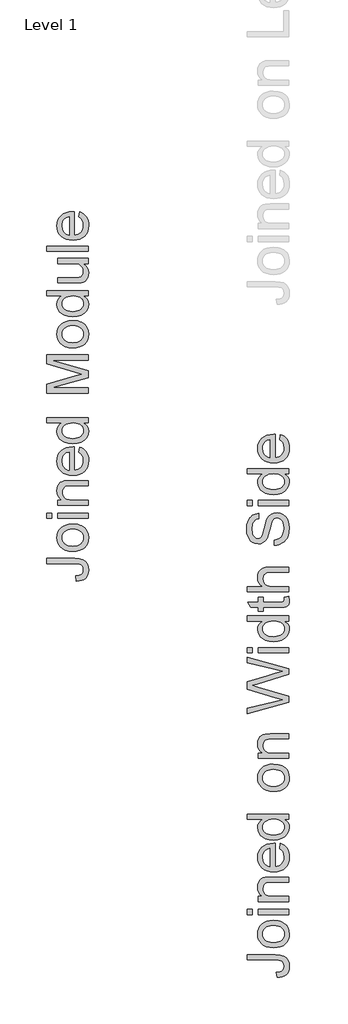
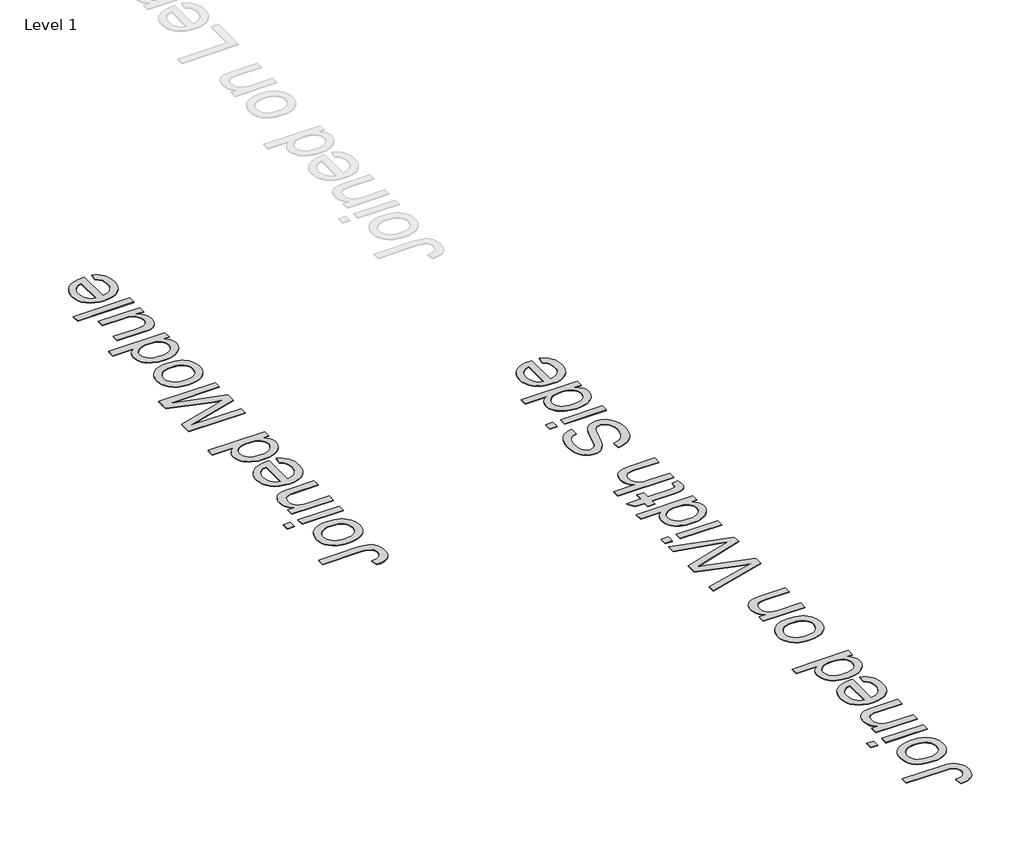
# One storey, part 9 of 69: 2 proxies.
"""IFC4 building model written with IfcOpenShell, lengths in millimetres."""

import ifcopenshell
import ifcopenshell.guid

model = None  # the IFC model being written
_history = None  # IfcOwnerHistory: only IFC2X3 demands one
_inside = {}  # id of a spatial element -> (the spatial element, [elements in it])
_under = {}  # id of a project, library or spatial element -> (it, [spatial elements below it])
_declared = {}  # id of a project -> (the project, [libraries it declares])
_typed = {}  # id of a type object -> (the type object, [elements of that type])
_made_of = {}  # id of a material, layer set ... -> (it, [elements and type objects made of it])


def new_model(schema):
    """Start an empty IFC model of exactly this schema.

    Asked for "IFC4X3", IfcOpenShell would pick the latest addendum, in which some entities
    have other attributes; the version numbers below select the first issue.
    IFC2X3 requires an IfcOwnerHistory on every rooted entity: one is made here for all.
    """
    global model, _history
    if schema == "IFC4X3":
        model = ifcopenshell.file(schema_version=(4, 3, 0, 0))
    else:
        model = ifcopenshell.file(schema=schema)
    _inside.clear()
    _under.clear()
    _declared.clear()
    _typed.clear()
    _made_of.clear()
    _history = None
    if model.schema == "IFC2X3":
        org = make("IfcOrganization", Name="unknown")
        user = make(
            "IfcPersonAndOrganization",
            ThePerson=make("IfcPerson", FamilyName="unknown"),
            TheOrganization=org,
        )
        app = make(
            "IfcApplication",
            ApplicationDeveloper=org,
            Version="unknown",
            ApplicationFullName="unknown",
            ApplicationIdentifier="unknown",
        )
        _history = make(
            "IfcOwnerHistory",
            OwningUser=user,
            OwningApplication=app,
            ChangeAction="ADDED",
            CreationDate=0,
        )
    return model


def make(cls, **values):
    """One entity of the class cls with the attributes given. An attribute that is None is left unset."""
    return model.create_entity(
        cls, **{name: value for name, value in values.items() if value is not None}
    )


def rooted(cls, **values):
    """An entity with a GlobalId (a new one), such as an element, a storey or a relation."""
    return make(cls, GlobalId=ifcopenshell.guid.new(), OwnerHistory=_history, **values)


def si_unit(unit_type, name, prefix=None):
    """IfcSIUnit, for example si_unit("LENGTHUNIT", "METRE", prefix="MILLI")."""
    return make("IfcSIUnit", UnitType=unit_type, Prefix=prefix, Name=name)


def assignment(units):
    """IfcUnitAssignment: the units of a project."""
    return None if units is None else make("IfcUnitAssignment", Units=units)


def point(xyz):
    """IfcCartesianPoint."""
    return None if xyz is None else make("IfcCartesianPoint", Coordinates=xyz)


def direction(xyz):
    """IfcDirection."""
    return None if xyz is None else make("IfcDirection", DirectionRatios=xyz)


def frame(location, z_axis=None, x_axis=None):
    """IfcAxis2Placement3D, a coordinate frame: its origin and axes. An axis left out is left unset."""
    return make(
        "IfcAxis2Placement3D",
        Location=point(location),
        Axis=direction(z_axis),
        RefDirection=direction(x_axis),
    )


def origin():
    """The frame at (0, 0, 0) with its axes left unset."""
    return frame((0.0, 0.0, 0.0))


def origin_with_axes():
    """The frame at (0, 0, 0) with the z axis (0, 0, 1) and the x axis (1, 0, 0) written out."""
    return frame((0.0, 0.0, 0.0), z_axis=(0.0, 0.0, 1.0), x_axis=(1.0, 0.0, 0.0))


def place(relative_to, where):
    """IfcLocalPlacement: puts the frame where relative to a parent placement (None: the world)."""
    return make(
        "IfcLocalPlacement", PlacementRelTo=relative_to, RelativePlacement=where
    )


def context(
    kind, dimensions, precision=None, world=None, true_north=None, identifier=None
):
    """IfcGeometricRepresentationContext, for example the 3D "Model" context."""
    return make(
        "IfcGeometricRepresentationContext",
        ContextIdentifier=identifier,
        ContextType=kind,
        CoordinateSpaceDimension=dimensions,
        Precision=precision,
        WorldCoordinateSystem=world,
        TrueNorth=true_north,
    )


def project(units=None, contexts=None):
    """IfcProject with its units and contexts."""
    return rooted(
        "IfcProject",
        Name="project",
        RepresentationContexts=contexts,
        UnitsInContext=assignment(units),
    )


def spatial(cls, under=None, at=None, **own):
    """A site, building, storey or space (cls), placed at a placement, below another one or the project."""
    s = rooted(cls, ObjectPlacement=at, **own)
    if under is not None:
        _under.setdefault(under.id(), (under, []))[1].append(s)
    return s


def polyline(points):
    """IfcPolyline through the points."""
    return make("IfcPolyline", Points=[point(p) for p in points])


def outline(outer, holes=None, kind="AREA"):
    """IfcArbitraryClosedProfileDef: a profile drawn as a closed curve; with holes, ...WithVoids."""
    if holes is None:
        return make("IfcArbitraryClosedProfileDef", ProfileType=kind, OuterCurve=outer)
    return make(
        "IfcArbitraryProfileDefWithVoids",
        ProfileType=kind,
        OuterCurve=outer,
        InnerCurves=holes,
    )


def extrude(swept, where, along, depth):
    """IfcExtrudedAreaSolid: the profile swept, set in the frame where, extruded along a direction by depth."""
    return make(
        "IfcExtrudedAreaSolid",
        SweptArea=swept,
        Position=where,
        ExtrudedDirection=direction(along),
        Depth=depth,
    )


def shape(context_of_items, identifier, shape_type, items):
    """IfcShapeRepresentation: the items that make up one representation, for example the "Body"."""
    return make(
        "IfcShapeRepresentation",
        ContextOfItems=context_of_items,
        RepresentationIdentifier=identifier,
        RepresentationType=shape_type,
        Items=items,
    )


def made_of(thing, what):
    """Note that an element or type object is made of a material, layer set ...; save() writes the relation."""
    if what is not None:
        _made_of.setdefault(what.id(), (what, []))[1].append(thing)
    return thing


def element(
    cls,
    number,
    at=None,
    inside=None,
    cuts=None,
    type_object=None,
    material=None,
    context=None,
    identifier="Body",
    shape_type=None,
    held_by="IfcProductDefinitionShape",
    body=None,
    shapes=None,
    **own,
):
    """One element of the class cls, such as IfcWall. Its Tag is "e" and its number.

    at: its placement. inside: the storey or other place that contains it. cuts: it is an
    opening in that element (IfcRelVoidsElement). A single representation is given by context,
    identifier, shape_type and body (its items); several are given by shapes. held_by: the class
    of the entity that holds the representations. save() writes the other relations.
    """
    e = rooted(cls, Tag="e%d" % number, ObjectPlacement=at, **own)
    if body is not None:
        shapes = [shape(context, identifier, shape_type, body)]
    if shapes is not None:
        e.Representation = make(held_by, Representations=shapes)
    if inside is not None:
        _inside.setdefault(inside.id(), (inside, []))[1].append(e)
    if cuts is not None:
        rooted(
            "IfcRelVoidsElement", RelatingBuildingElement=cuts, RelatedOpeningElement=e
        )
    if type_object is not None:
        _typed.setdefault(type_object.id(), (type_object, []))[1].append(e)
    return made_of(e, material)


def aggregate(whole, parts):
    """IfcRelAggregates: a whole, such as a stair, and the parts it consists of."""
    return rooted("IfcRelAggregates", RelatingObject=whole, RelatedObjects=parts)


def save(model, path):
    """Write the relations noted so far, then the file.

    IfcRelAggregates (storeys below a building ...), IfcRelContainedInSpatialStructure (elements
    in a storey), IfcRelDefinesByType, IfcRelAssociatesMaterial and IfcRelDeclares: one each for
    every whole, place, type object, material and project.
    """
    for whole, parts in _under.values():
        aggregate(whole, parts)
    for where, things in _inside.values():
        rooted(
            "IfcRelContainedInSpatialStructure",
            RelatedElements=things,
            RelatingStructure=where,
        )
    for kind, things in _typed.values():
        rooted("IfcRelDefinesByType", RelatedObjects=things, RelatingType=kind)
    for what, things in _made_of.values():
        rooted("IfcRelAssociatesMaterial", RelatedObjects=things, RelatingMaterial=what)
    for by, libraries in _declared.values():
        rooted("IfcRelDeclares", RelatingContext=by, RelatedDefinitions=libraries)
    model.write(path)


model = new_model("IFC4")

# Units and contexts
model_context = context("Model", 3, world=origin())
ifc_project = project(units=[si_unit("LENGTHUNIT", "METRE", prefix="MILLI")], contexts=[model_context])

# Site, building, storey
site = spatial("IfcSite", under=ifc_project)
building = spatial("IfcBuilding", under=site)
storey = spatial("IfcBuildingStorey", under=building, Name="Level 1", Elevation=0.0)

# Proxies
placement = place(None, origin())
element("IfcBuildingElementProxy", 1, Name="500mm Arial", ObjectType="500mm Arial", at=placement, inside=storey, context=model_context, shape_type="SweptSolid", body=[
    extrude(outline(polyline([(-18558.6715198, -28189.9254141), (-18566.7649237, -28127.1402202), (-18521.1168995, -28120.6103148), (-18504.7078297, -28114.1953725), (-18492.575388, -28105.6804372), (-18477.5841967, -28082.8717535), (-18472.587133, -28052.7054299), (-18475.42289, -28029.5135357), (-18483.9301611, -28009.7245501), (-18497.3271971, -27994.4574473), (-18514.8322487, -27984.8312017), (-18540.1701212, -27979.7268391), (-18577.0656196, -27978.0253848), (-18919.9316391, -27978.0253848), (-18919.9316391, -27915.240191), (-18578.1692656, -27915.240191), (-18522.2665307, -27919.0263099), (-18480.6192232, -27930.3846665), (-18450.1923165, -27949.9743827), (-18427.9507842, -27978.4545805), (-18414.3391504, -28014.2157761), (-18409.8019391, -28055.6484858), (-18412.1433547, -28086.5888945), (-18419.1676016, -28113.6818706), (-18430.8746797, -28136.9274141), (-18447.264589, -28156.3255252), (-18468.2760158, -28171.5313143), (-18493.8476466, -28182.1998922), (-18523.9794813, -28188.3312587), (-18558.6715198, -28189.9254141)])), origin_with_axes(), (0.0, 0.0, 1.0), 5.0),
    extrude(outline(polyline([(-18602.0815953, -27828.9105495), (-18649.8526052, -27825.5153052), (-18691.0170676, -27815.3295725), (-18725.5749825, -27798.3533512), (-18753.5263499, -27774.5866415), (-18771.3916193, -27750.6589834), (-18784.152526, -27724.2481218), (-18791.8090701, -27695.3540568), (-18794.3612514, -27663.9767883), (-18791.253415, -27629.3383992), (-18781.9299057, -27598.0186122), (-18766.3907235, -27570.0174275), (-18744.6358684, -27545.3348448), (-18717.4011044, -27525.1894735), (-18685.4221956, -27510.7999225), (-18648.6991418, -27502.166192), (-18607.2319432, -27499.2882818), (-18543.8029559, -27504.377316), (-18517.7676405, -27510.7386089), (-18495.518444, -27519.6444188), (-18476.3004419, -27530.9836149), (-18459.3587096, -27544.6450661), (-18444.6932471, -27560.6287724), (-18432.3040545, -27578.9347337), (-18415.427468, -27619.6623363), (-18409.8019391, -27663.9767883), (-18412.8982792, -27699.1210151), (-18422.1872996, -27730.732042), (-18437.6690003, -27758.8098689), (-18459.3433811, -27783.3544957), (-18486.8425603, -27803.2852692), (-18519.7986557, -27817.521536), (-18558.2116673, -27826.0632961), (-18602.0815953, -27828.9105495)]), holes=[polyline([(-18602.2042226, -27766.1253556), (-18571.7504912, -27764.3089383), (-18545.3817828, -27758.8596862), (-18523.0980973, -27749.7775995), (-18504.8994349, -27737.062678), (-18490.7628028, -27721.5963058), (-18480.6652084, -27704.2598668), (-18474.6066518, -27685.0533609), (-18472.587133, -27663.9767883), (-18474.6181481, -27643.0075146), (-18480.7111937, -27623.8776508), (-18490.8662696, -27606.587197), (-18505.0833759, -27591.1361532), (-18523.4621472, -27578.4212318), (-18546.1022183, -27569.339145), (-18573.0035892, -27563.889893), (-18604.1662599, -27562.0734756), (-18633.6543011, -27563.9013893), (-18659.3332308, -27569.3851303), (-18681.203049, -27578.5246986), (-18699.2637557, -27591.3200942), (-18713.4003877, -27606.8286196), (-18723.4979821, -27624.1075771), (-18729.5565387, -27643.1569666), (-18731.5760576, -27663.9767883), (-18729.5642029, -27685.0533609), (-18723.5286389, -27704.2598668), (-18713.4693656, -27721.5963058), (-18699.386383, -27737.062678), (-18681.24137, -27749.7775995), (-18658.9960056, -27758.8596862), (-18632.6502898, -27764.3089383), (-18602.2042226, -27766.1253556)])]), origin_with_axes(), (0.0, 0.0, 1.0), 5.0),
    extrude(outline(polyline([(-18857.1464453, -27428.6549387), (-18919.9316391, -27428.6549387), (-18919.9316391, -27365.8697449), (-18857.1464453, -27365.8697449), (-18857.1464453, -27428.6549387)])), origin_with_axes(), (0.0, 0.0, 1.0), 5.0),
    extrude(outline(polyline([(-18417.6500883, -27428.6549387), (-18786.5131022, -27428.6549387), (-18786.5131022, -27365.8697449), (-18417.6500883, -27365.8697449), (-18417.6500883, -27428.6549387)])), origin_with_axes(), (0.0, 0.0, 1.0), 5.0),
    extrude(outline(polyline([(-18417.6500883, -27271.6919541), (-18786.5131022, -27271.6919541), (-18786.5131022, -27208.9067602), (-18735.0096229, -27208.9067602), (-18760.9759603, -27187.0944236), (-18779.5233443, -27160.8981599), (-18790.6517746, -27130.317969), (-18794.3612514, -27095.3538511), (-18791.3722102, -27064.4057782), (-18782.4050866, -27036.0635362), (-18768.5788549, -27012.427118), (-18751.0124896, -26995.5965167), (-18729.751976, -26984.1768464), (-18704.8432993, -26976.7732213), (-18644.14277, -26973.4622833), (-18417.6500883, -26973.4622833), (-18417.6500883, -27036.2474772), (-18635.6814842, -27036.2474772), (-18668.1470702, -27038.0562303), (-18691.2316654, -27043.4824898), (-18707.7710268, -27053.4919457), (-18720.6009114, -27069.0502884), (-18728.832271, -27088.9925582), (-18731.5760576, -27112.1537955), (-18730.0355517, -27131.2185135), (-18725.4140341, -27148.9266666), (-18717.7115049, -27165.2782549), (-18706.9279639, -27180.2732783), (-18691.8371379, -27192.8004266), (-18671.2127535, -27201.7483898), (-18645.0548108, -27207.1171676), (-18613.3633098, -27208.9067602), (-18417.6500883, -27208.9067602), (-18417.6500883, -27271.6919541)])), origin_with_axes(), (0.0, 0.0, 1.0), 5.0),
    extrude(outline(polyline([(-18527.5241776, -26628.8794812), (-18519.6760283, -26567.3205607), (-18495.0202705, -26576.7590331), (-18473.2922401, -26589.5007793), (-18454.4919373, -26605.5457992), (-18438.6193621, -26624.8940929), (-18426.0117395, -26647.3463909), (-18417.0062949, -26672.7034239), (-18411.6030281, -26700.9651917), (-18409.8019391, -26732.1316945), (-18412.9097756, -26771.0888649), (-18422.2332849, -26805.800064), (-18437.7724671, -26836.2652918), (-18459.5273221, -26862.4845481), (-18486.8923776, -26883.568785), (-18519.2621611, -26898.6289542), (-18556.6366725, -26907.6650557), (-18599.015912, -26910.6770895), (-18642.8321904, -26907.6343988), (-18681.4521357, -26898.5063268), (-18714.8757478, -26883.2928735), (-18743.1030267, -26861.9940388), (-18765.5285, -26835.8437603), (-18781.5466952, -26806.0759755), (-18791.1576124, -26772.6906845), (-18794.3612514, -26735.6878871), (-18791.1652766, -26699.8768742), (-18781.5773521, -26667.4917623), (-18765.5974779, -26638.5325515), (-18743.2256541, -26612.9992417), (-18715.0596888, -26592.1564274), (-18681.6973904, -26577.2687029), (-18643.1387588, -26568.3360683), (-18599.383794, -26565.3585234), (-18582.4612222, -26565.7264053), (-18582.4612222, -26847.8918956), (-18557.4069255, -26844.2552288), (-18535.4642973, -26837.0240484), (-18516.6333377, -26826.1983542), (-18500.9140466, -26811.7781465), (-18488.5210219, -26794.5605027), (-18479.6688614, -26775.3425005), (-18474.3575651, -26754.12414), (-18472.587133, -26730.9054212), (-18475.8674141, -26697.4894733), (-18485.7082575, -26669.3465007), (-18502.7227997, -26646.4765033), (-18527.5241776, -26628.8794812)]), holes=[polyline([(-18645.246416, -26847.8918956), (-18645.246416, -26628.1437172), (-18678.4171093, -26636.6356599), (-18702.145498, -26653.2823202), (-18715.0213678, -26670.4041614), (-18724.2184177, -26689.8865787), (-18729.7366476, -26711.7295722), (-18731.5760576, -26735.9331418), (-18725.7052741, -26778.2548996), (-18718.3667947, -26796.6681599), (-18708.0929235, -26813.2496744), (-18695.3588416, -26827.1640445), (-18680.6397297, -26837.5758714), (-18663.9355878, -26844.4851551), (-18645.246416, -26847.8918956)])]), origin_with_axes(), (0.0, 0.0, 1.0), 5.0),
    extrude(outline(polyline([(-18417.6500883, -26274.9770018), (-18476.8790896, -26274.9770018), (-18447.5328362, -26293.7619762), (-18426.5712267, -26316.5170104), (-18413.994261, -26343.2421046), (-18409.8019391, -26373.9372585), (-18415.871992, -26414.5269053), (-18434.0821508, -26451.6829868), (-18463.1601568, -26483.1368974), (-18501.8337516, -26506.6200315), (-18548.5394365, -26521.2433408), (-18601.7137133, -26526.1177772), (-18654.2288681, -26521.6265512), (-18701.6549886, -26508.1528731), (-18722.7852107, -26498.0514467), (-18741.2942736, -26485.7120714), (-18757.1821773, -26471.1347473), (-18770.4489217, -26454.3194745), (-18788.383169, -26416.3509869), (-18794.3612514, -26374.1825132), (-18790.0846232, -26343.4643666), (-18777.2547386, -26316.3024126), (-18757.5883803, -26293.2791311), (-18732.8023309, -26274.9770018), (-18919.9316391, -26274.9770018), (-18919.9316391, -26212.191808), (-18417.6500883, -26212.191808), (-18417.6500883, -26274.9770018)]), holes=[polyline([(-18601.9589679, -26463.3325834), (-18571.5129007, -26461.5621513), (-18545.1671849, -26456.250855), (-18522.9218205, -26447.3986944), (-18504.7768075, -26435.0056697), (-18490.6938249, -26420.2060836), (-18480.6345516, -26404.134239), (-18474.5989876, -26386.7901357), (-18472.587133, -26368.1737739), (-18474.5070171, -26349.4692737), (-18480.2666696, -26332.2286373), (-18489.8660904, -26316.4518647), (-18503.3052796, -26302.1389558), (-18520.6915359, -26290.2556009), (-18542.1321585, -26281.7674903), (-18567.6271472, -26276.674624), (-18597.176502, -26274.9770018), (-18629.5731102, -26276.7052808), (-18657.355865, -26281.8901177), (-18680.5247665, -26290.5315124), (-18699.0798147, -26302.6294651), (-18713.2969209, -26317.2566065), (-18723.4519968, -26333.4855675), (-18729.5450424, -26351.3163479), (-18731.5760576, -26370.7489479), (-18729.6255166, -26389.7331917), (-18723.7738936, -26407.0772949), (-18714.0211886, -26422.7812576), (-18700.3674016, -26436.8450797), (-18682.5136286, -26448.4333626), (-18660.1609653, -26456.7107074), (-18633.3094117, -26461.6771144), (-18601.9589679, -26463.3325834)])]), origin_with_axes(), (0.0, 0.0, 1.0), 5.0),
    extrude(outline(polyline([(-18417.6500883, -25913.9621372), (-18919.9316391, -25913.9621372), (-18919.9316391, -25805.927458), (-18565.9065324, -25703.165754), (-18491.9622514, -25682.4417349), (-18572.037899, -25660.0009332), (-18919.9316391, -25558.9560119), (-18919.9316391, -25450.9213326), (-18417.6500883, -25450.9213326), (-18417.6500883, -25513.7065265), (-18857.1464453, -25513.7065265), (-18417.6500883, -25639.8900508), (-18417.6500883, -25724.993419), (-18857.1464453, -25851.1769434), (-18417.6500883, -25851.1769434), (-18417.6500883, -25913.9621372)])), origin_with_axes(), (0.0, 0.0, 1.0), 5.0),
    extrude(outline(polyline([(-18602.0815953, -25364.5916911), (-18649.8526052, -25361.1964468), (-18691.0170676, -25351.0107141), (-18725.5749825, -25334.0344929), (-18753.5263499, -25310.2677831), (-18771.3916193, -25286.340125), (-18784.152526, -25259.9292635), (-18791.8090701, -25231.0351984), (-18794.3612514, -25199.6579299), (-18791.253415, -25165.0195408), (-18781.9299057, -25133.6997539), (-18766.3907235, -25105.6985691), (-18744.6358684, -25081.0159865), (-18717.4011044, -25060.8706151), (-18685.4221956, -25046.4810642), (-18648.6991418, -25037.8473336), (-18607.2319432, -25034.9694234), (-18543.8029559, -25040.0584577), (-18517.7676405, -25046.4197505), (-18495.518444, -25055.3255605), (-18476.3004419, -25066.6647566), (-18459.3587096, -25080.3262077), (-18444.6932471, -25096.309914), (-18432.3040545, -25114.6158754), (-18415.427468, -25155.3434779), (-18409.8019391, -25199.6579299), (-18412.8982792, -25234.8021568), (-18422.1872996, -25266.4131836), (-18437.6690003, -25294.4910105), (-18459.3433811, -25319.0356374), (-18486.8425603, -25338.9664109), (-18519.7986557, -25353.2026777), (-18558.2116673, -25361.7444377), (-18602.0815953, -25364.5916911)]), holes=[polyline([(-18602.2042226, -25301.8064973), (-18571.7504912, -25299.9900799), (-18545.3817828, -25294.5408278), (-18523.0980973, -25285.4587411), (-18504.8994349, -25272.7438196), (-18490.7628028, -25257.2774474), (-18480.6652084, -25239.9410084), (-18474.6066518, -25220.7345026), (-18472.587133, -25199.6579299), (-18474.6181481, -25178.6886562), (-18480.7111937, -25159.5587925), (-18490.8662696, -25142.2683387), (-18505.0833759, -25126.8172949), (-18523.4621472, -25114.1023734), (-18546.1022183, -25105.0202867), (-18573.0035892, -25099.5710346), (-18604.1662599, -25097.7546173), (-18633.6543011, -25099.5825309), (-18659.3332308, -25105.0662719), (-18681.203049, -25114.2058402), (-18699.2637557, -25127.0012359), (-18713.4003877, -25142.5097612), (-18723.4979821, -25159.7887187), (-18729.5565387, -25178.8381083), (-18731.5760576, -25199.6579299), (-18729.5642029, -25220.7345026), (-18723.5286389, -25239.9410084), (-18713.4693656, -25257.2774474), (-18699.386383, -25272.7438196), (-18681.24137, -25285.4587411), (-18658.9960056, -25294.5408278), (-18632.6502898, -25299.9900799), (-18602.2042226, -25301.8064973)])]), origin_with_axes(), (0.0, 0.0, 1.0), 5.0),
    extrude(outline(polyline([(-18417.6500883, -24736.7397527), (-18476.8790896, -24736.7397527), (-18447.5328362, -24755.524727), (-18426.5712267, -24778.2797613), (-18413.994261, -24805.0048554), (-18409.8019391, -24835.7000094), (-18415.871992, -24876.2896562), (-18434.0821508, -24913.4457377), (-18463.1601568, -24944.8996483), (-18501.8337516, -24968.3827823), (-18548.5394365, -24983.0060916), (-18601.7137133, -24987.880528), (-18654.2288681, -24983.389302), (-18701.6549886, -24969.9156239), (-18722.7852107, -24959.8141975), (-18741.2942736, -24947.4748222), (-18757.1821773, -24932.8974982), (-18770.4489217, -24916.0822253), (-18788.383169, -24878.1137377), (-18794.3612514, -24835.945264), (-18790.0846232, -24805.2271174), (-18777.2547386, -24778.0651635), (-18757.5883803, -24755.0418819), (-18732.8023309, -24736.7397527), (-18919.9316391, -24736.7397527), (-18919.9316391, -24673.9545588), (-18417.6500883, -24673.9545588), (-18417.6500883, -24736.7397527)]), holes=[polyline([(-18601.9589679, -24925.0953342), (-18571.5129007, -24923.3249021), (-18545.1671849, -24918.0136058), (-18522.9218205, -24909.1614453), (-18504.7768075, -24896.7684206), (-18490.6938249, -24881.9688345), (-18480.6345516, -24865.8969898), (-18474.5989876, -24848.5528866), (-18472.587133, -24829.9365248), (-18474.5070171, -24811.2320246), (-18480.2666696, -24793.9913882), (-18489.8660904, -24778.2146155), (-18503.3052796, -24763.9017066), (-18520.6915359, -24752.0183518), (-18542.1321585, -24743.5302412), (-18567.6271472, -24738.4373748), (-18597.176502, -24736.7397527), (-18629.5731102, -24738.4680316), (-18657.355865, -24743.6528685), (-18680.5247665, -24752.2942633), (-18699.0798147, -24764.392216), (-18713.2969209, -24779.0193574), (-18723.4519968, -24795.2483183), (-18729.5450424, -24813.0790988), (-18731.5760576, -24832.5116987), (-18729.6255166, -24851.4959425), (-18723.7738936, -24868.8400458), (-18714.0211886, -24884.5440084), (-18700.3674016, -24898.6078305), (-18682.5136286, -24910.1961134), (-18660.1609653, -24918.4734583), (-18633.3094117, -24923.4398652), (-18601.9589679, -24925.0953342)])]), origin_with_axes(), (0.0, 0.0, 1.0), 5.0),
    extrude(outline(polyline([(-18417.6500883, -24344.3322911), (-18481.0484189, -24344.3322911), (-18449.878084, -24367.0490043), (-18427.6135591, -24393.5058512), (-18414.2548441, -24423.7028316), (-18409.8019391, -24457.6399457), (-18412.9289361, -24488.2201365), (-18422.309927, -24516.6850059), (-18436.4120701, -24540.5666787), (-18453.7025239, -24557.39728), (-18474.7024544, -24568.7249798), (-18499.9330279, -24576.0979481), (-18558.3036378, -24579.7767681), (-18786.5131022, -24579.7767681), (-18786.5131022, -24516.9915742), (-18587.8568248, -24516.9915742), (-18523.8453576, -24513.1901269), (-18502.4928735, -24504.0390623), (-18486.2600804, -24488.3580923), (-18476.0053698, -24467.1895491), (-18472.587133, -24441.5757652), (-18476.0820119, -24414.4904533), (-18486.5666488, -24389.1525809), (-18503.0753533, -24368.2599492), (-18524.6424353, -24354.5103597), (-18554.1802938, -24346.8768083), (-18594.601328, -24344.3322911), (-18786.5131022, -24344.3322911), (-18786.5131022, -24281.5470973), (-18417.6500883, -24281.5470973), (-18417.6500883, -24344.3322911)])), origin_with_axes(), (0.0, 0.0, 1.0), 5.0),
    extrude(outline(polyline([(-18417.6500883, -24195.2174558), (-18919.9316391, -24195.2174558), (-18919.9316391, -24132.4322619), (-18417.6500883, -24132.4322619), (-18417.6500883, -24195.2174558)])), origin_with_axes(), (0.0, 0.0, 1.0), 5.0),
    extrude(outline(polyline([(-18527.5241776, -23780.0013105), (-18519.6760283, -23718.44239), (-18495.0202705, -23727.8808625), (-18473.2922401, -23740.6226086), (-18454.4919373, -23756.6676286), (-18438.6193621, -23776.0159223), (-18426.0117395, -23798.4682203), (-18417.0062949, -23823.8252532), (-18411.6030281, -23852.0870211), (-18409.8019391, -23883.2535239), (-18412.9097756, -23922.2106943), (-18422.2332849, -23956.9218934), (-18437.7724671, -23987.3871211), (-18459.5273221, -24013.6063775), (-18486.8923776, -24034.6906143), (-18519.2621611, -24049.7507835), (-18556.6366725, -24058.786885), (-18599.015912, -24061.7989188), (-18642.8321904, -24058.7562282), (-18681.4521357, -24049.6281562), (-18714.8757478, -24034.4147028), (-18743.1030267, -24013.1158681), (-18765.5285, -23986.9655897), (-18781.5466952, -23957.1978049), (-18791.1576124, -23923.8125138), (-18794.3612514, -23886.8097165), (-18791.1652766, -23850.9987035), (-18781.5773521, -23818.6135916), (-18765.5974779, -23789.6543808), (-18743.2256541, -23764.1210711), (-18715.0596888, -23743.2782568), (-18681.6973904, -23728.3905323), (-18643.1387588, -23719.4578976), (-18599.383794, -23716.4803527), (-18582.4612222, -23716.8482347), (-18582.4612222, -23999.013725), (-18557.4069255, -23995.3770582), (-18535.4642973, -23988.1458777), (-18516.6333377, -23977.3201836), (-18500.9140466, -23962.8999758), (-18488.5210219, -23945.682332), (-18479.6688614, -23926.4643299), (-18474.3575651, -23905.2459694), (-18472.587133, -23882.0272505), (-18475.8674141, -23848.6113026), (-18485.7082575, -23820.46833), (-18502.7227997, -23797.5983326), (-18527.5241776, -23780.0013105)]), holes=[polyline([(-18645.246416, -23999.013725), (-18645.246416, -23779.2655465), (-18678.4171093, -23787.7574893), (-18702.145498, -23804.4041496), (-18715.0213678, -23821.5259907), (-18724.2184177, -23841.0084081), (-18729.7366476, -23862.8514015), (-18731.5760576, -23887.0549711), (-18725.7052741, -23929.376729), (-18718.3667947, -23947.7899893), (-18708.0929235, -23964.3715038), (-18695.3588416, -23978.2858738), (-18680.6397297, -23988.6977007), (-18663.9355878, -23995.6069844), (-18645.246416, -23999.013725)])]), origin_with_axes(), (0.0, 0.0, 1.0), 5.0),
])
element("IfcBuildingElementProxy", 2, Name="500mm Arial", ObjectType="500mm Arial", at=placement, inside=storey, context=model_context, shape_type="SweptSolid", body=[
    extrude(outline(polyline([(-16128.0287727, -32989.6383072), (-16136.1221765, -32926.8531133), (-16090.4741523, -32920.3232079), (-16074.0650825, -32913.9082656), (-16061.9326409, -32905.3933303), (-16046.9414495, -32882.5846466), (-16041.9443858, -32852.418323), (-16044.7801428, -32829.2264288), (-16053.287414, -32809.4374432), (-16066.68445, -32794.1703404), (-16084.1895016, -32784.5440949), (-16109.527374, -32779.4397322), (-16146.4228724, -32777.7382779), (-16489.2888919, -32777.7382779), (-16489.2888919, -32714.9530841), (-16147.5265184, -32714.9530841), (-16091.6237835, -32718.739203), (-16049.976476, -32730.0975596), (-16019.5495693, -32749.6872758), (-15997.308037, -32778.1674736), (-15983.6964032, -32813.9286692), (-15979.1591919, -32855.3613789), (-15981.5006076, -32886.3017876), (-15988.5248544, -32913.3947637), (-16000.2319325, -32936.6403072), (-16016.6218418, -32956.0384183), (-16037.6332686, -32971.2442074), (-16063.2048994, -32981.9127853), (-16093.3367341, -32988.0441519), (-16128.0287727, -32989.6383072)])), origin_with_axes(), (0.0, 0.0, 1.0), 5.0),
    extrude(outline(polyline([(-16171.4388481, -32628.6234426), (-16219.209858, -32625.2281983), (-16260.3743204, -32615.0424656), (-16294.9322353, -32598.0662443), (-16322.8836028, -32574.2995346), (-16340.7488722, -32550.3718765), (-16353.5097789, -32523.9610149), (-16361.1663229, -32495.0669499), (-16363.7185042, -32463.6896814), (-16360.6106678, -32429.0512923), (-16351.2871585, -32397.7315053), (-16335.7479763, -32369.7303206), (-16313.9931212, -32345.0477379), (-16286.7583573, -32324.9023666), (-16254.7794484, -32310.5128156), (-16218.0563947, -32301.8790851), (-16176.589196, -32299.0011749), (-16113.1602087, -32304.0902092), (-16087.1248933, -32310.451502), (-16064.8756968, -32319.357312), (-16045.6576947, -32330.696508), (-16028.7159624, -32344.3579592), (-16014.0504999, -32360.3416655), (-16001.6613073, -32378.6476268), (-15984.7847208, -32419.3752294), (-15979.1591919, -32463.6896814), (-15982.2555321, -32498.8339082), (-15991.5445524, -32530.4449351), (-16007.0262531, -32558.522762), (-16028.700634, -32583.0673888), (-16056.1998131, -32602.9981623), (-16089.1559085, -32617.2344291), (-16127.5689202, -32625.7761892), (-16171.4388481, -32628.6234426)]), holes=[polyline([(-16171.5614754, -32565.8382487), (-16141.107744, -32564.0218314), (-16114.7390356, -32558.5725793), (-16092.4553501, -32549.4904926), (-16074.2566877, -32536.7755711), (-16060.1200556, -32521.3091989), (-16050.0224613, -32503.9727599), (-16043.9639046, -32484.766254), (-16041.9443858, -32463.6896814), (-16043.975401, -32442.7204077), (-16050.0684465, -32423.5905439), (-16060.2235224, -32406.3000901), (-16074.4406287, -32390.8490463), (-16092.8194, -32378.1341249), (-16115.4594711, -32369.0520381), (-16142.360842, -32363.6027861), (-16173.5235127, -32361.7863687), (-16203.0115539, -32363.6142824), (-16228.6904836, -32369.0980234), (-16250.5603018, -32378.2375917), (-16268.6210085, -32391.0329873), (-16282.7576406, -32406.5415127), (-16292.8552349, -32423.8204702), (-16298.9137915, -32442.8698597), (-16300.9333104, -32463.6896814), (-16298.9214557, -32484.766254), (-16292.8858917, -32503.9727599), (-16282.8266184, -32521.3091989), (-16268.7436358, -32536.7755711), (-16250.5986228, -32549.4904926), (-16228.3532584, -32558.5725793), (-16202.0075426, -32564.0218314), (-16171.5614754, -32565.8382487)])]), origin_with_axes(), (0.0, 0.0, 1.0), 5.0),
    extrude(outline(polyline([(-16426.5036981, -32228.3678318), (-16489.2888919, -32228.3678318), (-16489.2888919, -32165.582638), (-16426.5036981, -32165.582638), (-16426.5036981, -32228.3678318)])), origin_with_axes(), (0.0, 0.0, 1.0), 5.0),
    extrude(outline(polyline([(-15987.0073412, -32228.3678318), (-16355.870355, -32228.3678318), (-16355.870355, -32165.582638), (-15987.0073412, -32165.582638), (-15987.0073412, -32228.3678318)])), origin_with_axes(), (0.0, 0.0, 1.0), 5.0),
    extrude(outline(polyline([(-15987.0073412, -32071.4048472), (-16355.870355, -32071.4048472), (-16355.870355, -32008.6196534), (-16304.3668757, -32008.6196534), (-16330.3332132, -31986.8073167), (-16348.8805971, -31960.611053), (-16360.0090274, -31930.0308621), (-16363.7185042, -31895.0667442), (-16360.729463, -31864.1186713), (-16351.7623394, -31835.7764293), (-16337.9361077, -31812.1400111), (-16320.3697425, -31795.3094098), (-16299.1092288, -31783.8897396), (-16274.2005521, -31776.4861144), (-16213.5000229, -31773.1751764), (-15987.0073412, -31773.1751764), (-15987.0073412, -31835.9603703), (-16205.038737, -31835.9603703), (-16237.504323, -31837.7691234), (-16260.5889182, -31843.1953829), (-16277.1282796, -31853.2048388), (-16289.9581642, -31868.7631815), (-16298.1895238, -31888.7054513), (-16300.9333104, -31911.8666886), (-16299.3928045, -31930.9314066), (-16294.771287, -31948.6395597), (-16287.0687577, -31964.991148), (-16276.2852167, -31979.9861714), (-16261.1943907, -31992.5133198), (-16240.5700063, -32001.4612829), (-16214.4120636, -32006.8300607), (-16182.7205626, -32008.6196534), (-15987.0073412, -32008.6196534), (-15987.0073412, -32071.4048472)])), origin_with_axes(), (0.0, 0.0, 1.0), 5.0),
    extrude(outline(polyline([(-16096.8814304, -31428.5923743), (-16089.0332812, -31367.0334538), (-16064.3775233, -31376.4719262), (-16042.6494929, -31389.2136724), (-16023.8491901, -31405.2586923), (-16007.9766149, -31424.606986), (-15995.3689923, -31447.059284), (-15986.3635477, -31472.416317), (-15980.9602809, -31500.6780848), (-15979.1591919, -31531.8445876), (-15982.2670284, -31570.8017581), (-15991.5905377, -31605.5129571), (-16007.1297199, -31635.9781849), (-16028.884575, -31662.1974412), (-16056.2496304, -31683.2816781), (-16088.6194139, -31698.3418473), (-16125.9939254, -31707.3779488), (-16168.3731648, -31710.3899826), (-16212.1894433, -31707.3472919), (-16250.8093885, -31698.2192199), (-16284.2330006, -31683.0057666), (-16312.4602796, -31661.7069319), (-16334.8857529, -31635.5566534), (-16350.9039481, -31605.7888686), (-16360.5148652, -31572.4035776), (-16363.7185042, -31535.4007802), (-16360.5225294, -31499.5897673), (-16350.9346049, -31467.2046554), (-16334.9547307, -31438.2454446), (-16312.5829069, -31412.7121348), (-16284.4169416, -31391.8693205), (-16251.0546432, -31376.9815961), (-16212.4960116, -31368.0489614), (-16168.7410468, -31365.0714165), (-16151.818475, -31365.4392985), (-16151.818475, -31647.6047888), (-16126.7641783, -31643.968122), (-16104.8215501, -31636.7369415), (-16085.9905905, -31625.9112474), (-16070.2712994, -31611.4910396), (-16057.8782747, -31594.2733958), (-16049.0261142, -31575.0553936), (-16043.7148179, -31553.8370331), (-16041.9443858, -31530.6183143), (-16045.2246669, -31497.2023664), (-16055.0655103, -31469.0593938), (-16072.0800526, -31446.1893964), (-16096.8814304, -31428.5923743)]), holes=[polyline([(-16214.6036688, -31647.6047888), (-16214.6036688, -31427.8566103), (-16247.7743621, -31436.348553), (-16271.5027508, -31452.9952133), (-16284.3786206, -31470.1170545), (-16293.5756705, -31489.5994718), (-16299.0939004, -31511.4424653), (-16300.9333104, -31535.6460349), (-16295.0625269, -31577.9677928), (-16287.7240475, -31596.381053), (-16277.4501764, -31612.9625675), (-16264.7160944, -31626.8769376), (-16249.9969825, -31637.2887645), (-16233.2928406, -31644.1980482), (-16214.6036688, -31647.6047888)])]), origin_with_axes(), (0.0, 0.0, 1.0), 5.0),
    extrude(outline(polyline([(-15987.0073412, -31074.6898949), (-16046.2363424, -31074.6898949), (-16016.8900891, -31093.4748693), (-15995.9284795, -31116.2299036), (-15983.3515138, -31142.9549977), (-15979.1591919, -31173.6501516), (-15985.2292449, -31214.2397984), (-16003.4394036, -31251.39588), (-16032.5174097, -31282.8497905), (-16071.1910044, -31306.3329246), (-16117.8966894, -31320.9562339), (-16171.0709661, -31325.8306703), (-16223.5861209, -31321.3394443), (-16271.0122414, -31307.8657662), (-16292.1424635, -31297.7643398), (-16310.6515264, -31285.4249645), (-16326.5394301, -31270.8476404), (-16339.8061745, -31254.0323676), (-16357.7404218, -31216.06388), (-16363.7185042, -31173.8954063), (-16359.441876, -31143.1772597), (-16346.6119915, -31116.0153057), (-16326.9456331, -31092.9920242), (-16302.1595837, -31074.6898949), (-16489.2888919, -31074.6898949), (-16489.2888919, -31011.9047011), (-15987.0073412, -31011.9047011), (-15987.0073412, -31074.6898949)]), holes=[polyline([(-16171.3162207, -31263.0454765), (-16140.8701535, -31261.2750444), (-16114.5244377, -31255.9637481), (-16092.2790733, -31247.1115876), (-16074.1340604, -31234.7185628), (-16060.0510777, -31219.9189767), (-16049.9918044, -31203.8471321), (-16043.9562404, -31186.5030288), (-16041.9443858, -31167.886667), (-16043.8642699, -31149.1821669), (-16049.6239224, -31131.9415304), (-16059.2233432, -31116.1647578), (-16072.6625324, -31101.8518489), (-16090.0487888, -31089.968494), (-16111.4894113, -31081.4803834), (-16136.9844, -31076.3875171), (-16166.5337548, -31074.6898949), (-16198.930363, -31076.4181739), (-16226.7131179, -31081.6030108), (-16249.8820193, -31090.2444055), (-16268.4370675, -31102.3423582), (-16282.6541737, -31116.9694997), (-16292.8092497, -31133.1984606), (-16298.9022952, -31151.029241), (-16300.9333104, -31170.461841), (-16298.9827694, -31189.4460848), (-16293.1311464, -31206.790188), (-16283.3784414, -31222.4941507), (-16269.7246545, -31236.5579728), (-16251.8708814, -31248.1462557), (-16229.5182181, -31256.4236006), (-16202.6666645, -31261.3900075), (-16171.3162207, -31263.0454765)])]), origin_with_axes(), (0.0, 0.0, 1.0), 5.0),
    extrude(outline(polyline([(-16171.4388481, -30737.219478), (-16219.209858, -30733.8242338), (-16260.3743204, -30723.638501), (-16294.9322353, -30706.6622798), (-16322.8836028, -30682.8955701), (-16340.7488722, -30658.967912), (-16353.5097789, -30632.5570504), (-16361.1663229, -30603.6629854), (-16363.7185042, -30572.2857169), (-16360.6106678, -30537.6473277), (-16351.2871585, -30506.3275408), (-16335.7479763, -30478.326356), (-16313.9931212, -30453.6437734), (-16286.7583573, -30433.4984021), (-16254.7794484, -30419.1088511), (-16218.0563947, -30410.4751205), (-16176.589196, -30407.5972103), (-16113.1602087, -30412.6862446), (-16087.1248933, -30419.0475374), (-16064.8756968, -30427.9533474), (-16045.6576947, -30439.2925435), (-16028.7159624, -30452.9539947), (-16014.0504999, -30468.9377009), (-16001.6613073, -30487.2436623), (-15984.7847208, -30527.9712649), (-15979.1591919, -30572.2857169), (-15982.2555321, -30607.4299437), (-15991.5445524, -30639.0409706), (-16007.0262531, -30667.1187974), (-16028.700634, -30691.6634243), (-16056.1998131, -30711.5941978), (-16089.1559085, -30725.8304646), (-16127.5689202, -30734.3722247), (-16171.4388481, -30737.219478)]), holes=[polyline([(-16171.5614754, -30674.4342842), (-16141.107744, -30672.6178668), (-16114.7390356, -30667.1686148), (-16092.4553501, -30658.086528), (-16074.2566877, -30645.3716066), (-16060.1200556, -30629.9052344), (-16050.0224613, -30612.5687953), (-16043.9639046, -30593.3622895), (-16041.9443858, -30572.2857169), (-16043.975401, -30551.3164431), (-16050.0684465, -30532.1865794), (-16060.2235224, -30514.8961256), (-16074.4406287, -30499.4450818), (-16092.8194, -30486.7301604), (-16115.4594711, -30477.6480736), (-16142.360842, -30472.1988215), (-16173.5235127, -30470.3824042), (-16203.0115539, -30472.2103179), (-16228.6904836, -30477.6940588), (-16250.5603018, -30486.8336272), (-16268.6210085, -30499.6290228), (-16282.7576406, -30515.1375482), (-16292.8552349, -30532.4165056), (-16298.9137915, -30551.4658952), (-16300.9333104, -30572.2857169), (-16298.9214557, -30593.3622895), (-16292.8858917, -30612.5687953), (-16282.8266184, -30629.9052344), (-16268.7436358, -30645.3716066), (-16250.5986228, -30658.086528), (-16228.3532584, -30667.1686148), (-16202.0075426, -30672.6178668), (-16171.5614754, -30674.4342842)])]), origin_with_axes(), (0.0, 0.0, 1.0), 5.0),
    extrude(outline(polyline([(-15987.0073412, -30336.9638673), (-16355.870355, -30336.9638673), (-16355.870355, -30274.1786734), (-16304.3668757, -30274.1786734), (-16330.3332132, -30252.3663368), (-16348.8805971, -30226.1700731), (-16360.0090274, -30195.5898822), (-16363.7185042, -30160.6257643), (-16360.729463, -30129.6776914), (-16351.7623394, -30101.3354494), (-16337.9361077, -30077.6990312), (-16320.3697425, -30060.8684299), (-16299.1092288, -30049.4487596), (-16274.2005521, -30042.0451345), (-16213.5000229, -30038.7341965), (-15987.0073412, -30038.7341965), (-15987.0073412, -30101.5193904), (-16205.038737, -30101.5193904), (-16237.504323, -30103.3281435), (-16260.5889182, -30108.7544029), (-16277.1282796, -30118.7638589), (-16289.9581642, -30134.3222016), (-16298.1895238, -30154.2644714), (-16300.9333104, -30177.4257087), (-16299.3928045, -30196.4904267), (-16294.771287, -30214.1985798), (-16287.0687577, -30230.5501681), (-16276.2852167, -30245.5451915), (-16261.1943907, -30258.0723398), (-16240.5700063, -30267.0203029), (-16214.4120636, -30272.3890808), (-16182.7205626, -30274.1786734), (-15987.0073412, -30274.1786734), (-15987.0073412, -30336.9638673)])), origin_with_axes(), (0.0, 0.0, 1.0), 5.0),
    extrude(outline(polyline([(-15987.0073412, -29658.4668408), (-16489.2888919, -29795.4415704), (-16489.2888919, -29730.6943392), (-16159.1761149, -29651.2318283), (-16057.2728022, -29626.7063619), (-16147.4038911, -29600.4641129), (-16489.2888919, -29500.8907196), (-16489.2888919, -29407.5713201), (-16241.4590545, -29335.2211944), (-16149.4885557, -29304.2271363), (-16057.2728022, -29281.3877958), (-16156.2330589, -29257.5980934), (-16489.2888919, -29177.3998185), (-16489.2888919, -29112.6525873), (-15987.0073412, -29249.7499442), (-15987.0073412, -29316.8270946), (-16374.5097094, -29437.2471344), (-16428.5883627, -29454.0470789), (-16363.4732496, -29472.9316879), (-15987.0073412, -29582.6831498), (-15987.0073412, -29658.4668408)])), origin_with_axes(), (0.0, 0.0, 1.0), 5.0),
    extrude(outline(polyline([(-16426.5036981, -29057.7155427), (-16489.2888919, -29057.7155427), (-16489.2888919, -28994.9303489), (-16426.5036981, -28994.9303489), (-16426.5036981, -29057.7155427)])), origin_with_axes(), (0.0, 0.0, 1.0), 5.0),
    extrude(outline(polyline([(-15987.0073412, -29057.7155427), (-16355.870355, -29057.7155427), (-16355.870355, -28994.9303489), (-15987.0073412, -28994.9303489), (-15987.0073412, -29057.7155427)])), origin_with_axes(), (0.0, 0.0, 1.0), 5.0),
    extrude(outline(polyline([(-15987.0073412, -28673.1562304), (-16046.2363424, -28673.1562304), (-16016.8900891, -28691.9412048), (-15995.9284795, -28714.696239), (-15983.3515138, -28741.4213332), (-15979.1591919, -28772.1164871), (-15985.2292449, -28812.7061339), (-16003.4394036, -28849.8622154), (-16032.5174097, -28881.316126), (-16071.1910044, -28904.7992601), (-16117.8966894, -28919.4225694), (-16171.0709661, -28924.2970058), (-16223.5861209, -28919.8057798), (-16271.0122414, -28906.3321017), (-16292.1424635, -28896.2306752), (-16310.6515264, -28883.8913), (-16326.5394301, -28869.3139759), (-16339.8061745, -28852.4987031), (-16357.7404218, -28814.5302155), (-16363.7185042, -28772.3617418), (-16359.441876, -28741.6435952), (-16346.6119915, -28714.4816412), (-16326.9456331, -28691.4583597), (-16302.1595837, -28673.1562304), (-16489.2888919, -28673.1562304), (-16489.2888919, -28610.3710366), (-15987.0073412, -28610.3710366), (-15987.0073412, -28673.1562304)]), holes=[polyline([(-16171.3162207, -28861.511812), (-16140.8701535, -28859.7413799), (-16114.5244377, -28854.4300835), (-16092.2790733, -28845.577923), (-16074.1340604, -28833.1848983), (-16060.0510777, -28818.3853122), (-16049.9918044, -28802.3134676), (-16043.9562404, -28784.9693643), (-16041.9443858, -28766.3530025), (-16043.8642699, -28747.6485023), (-16049.6239224, -28730.4078659), (-16059.2233432, -28714.6310933), (-16072.6625324, -28700.3181844), (-16090.0487888, -28688.4348295), (-16111.4894113, -28679.9467189), (-16136.9844, -28674.8538525), (-16166.5337548, -28673.1562304), (-16198.930363, -28674.8845094), (-16226.7131179, -28680.0693462), (-16249.8820193, -28688.710741), (-16268.4370675, -28700.8086937), (-16282.6541737, -28715.4358351), (-16292.8092497, -28731.6647961), (-16298.9022952, -28749.4955765), (-16300.9333104, -28768.9281765), (-16298.9827694, -28787.9124203), (-16293.1311464, -28805.2565235), (-16283.3784414, -28820.9604862), (-16269.7246545, -28835.0243083), (-16251.8708814, -28846.6125911), (-16229.5182181, -28854.889936), (-16202.6666645, -28859.856343), (-16171.3162207, -28861.511812)])]), origin_with_axes(), (0.0, 0.0, 1.0), 5.0),
    extrude(outline(polyline([(-16039.3692118, -28382.7747089), (-15985.1679312, -28374.9265597), (-15979.1591919, -28421.8928277), (-15981.7650227, -28452.0284945), (-15989.5825151, -28474.499953), (-16001.6306505, -28490.3801925), (-16016.9284101, -28500.742202), (-16043.2013159, -28506.4443729), (-16088.1748898, -28508.3450966), (-16293.0851612, -28508.3450966), (-16293.0851612, -28555.433992), (-16355.870355, -28555.433992), (-16355.870355, -28508.3450966), (-16445.5109345, -28508.3450966), (-16482.4217613, -28445.5599027), (-16355.870355, -28445.5599027), (-16355.870355, -28382.7747089), (-16293.0851612, -28382.7747089), (-16293.0851612, -28445.5599027), (-16090.0142998, -28445.5599027), (-16057.6406842, -28442.2489648), (-16046.1750287, -28431.5190733), (-16041.9443858, -28410.1206039), (-16039.3692118, -28382.7747089)])), origin_with_axes(), (0.0, 0.0, 1.0), 5.0),
    extrude(outline(polyline([(-15987.0073412, -28319.9895151), (-16489.2888919, -28319.9895151), (-16489.2888919, -28257.2043212), (-16304.6121303, -28257.2043212), (-16330.4711689, -28234.1427186), (-16348.9419108, -28208.245359), (-16360.0243559, -28179.5122424), (-16363.7185042, -28147.9433686), (-16359.6871307, -28110.0208663), (-16347.5930101, -28077.4326529), (-16328.3865043, -28051.7728837), (-16303.017975, -28034.6357141), (-16268.161156, -28024.9788118), (-16220.4897808, -28021.7598443), (-15987.0073412, -28021.7598443), (-15987.0073412, -28084.5450381), (-16213.9905322, -28084.5450381), (-16253.292592, -28089.5421019), (-16268.2991117, -28095.7884316), (-16280.2092913, -28104.5332932), (-16289.2760497, -28115.5697531), (-16295.7523056, -28128.6908776), (-16300.9333104, -28161.1871205), (-16297.4384314, -28187.7206094), (-16286.9537946, -28212.6292861), (-16270.4910753, -28233.2613347), (-16249.0619491, -28246.964939), (-16220.5817513, -28254.6444757), (-16182.9658173, -28257.2043212), (-15987.0073412, -28257.2043212), (-15987.0073412, -28319.9895151)])), origin_with_axes(), (0.0, 0.0, 1.0), 5.0),
    extrude(outline(polyline([(-16159.6666242, -27754.9227705), (-16159.6666242, -27692.1375766), (-16124.8251336, -27684.9332209), (-16096.8201167, -27671.9040669), (-16074.5939129, -27651.5785866), (-16057.0888612, -27622.4852522), (-16045.7305046, -27586.923326), (-16041.9443858, -27547.1920705), (-16044.8107997, -27512.2126241), (-16053.4100413, -27481.586448), (-16067.0216751, -27456.7697418), (-16084.9252655, -27439.2187049), (-16105.480672, -27428.7800533), (-16127.047754, -27425.3005028), (-16148.063013, -27427.9063336), (-16166.2271865, -27435.723826), (-16181.7242155, -27451.6040654), (-16194.7380411, -27478.3981374), (-16218.7116845, -27569.8168132), (-16234.5765955, -27629.8275637), (-16249.6750857, -27668.2252469), (-16270.7976436, -27699.4798881), (-16296.3960991, -27721.6294499), (-16325.9186292, -27734.8272165), (-16358.813411, -27739.226472), (-16395.5862821, -27733.7848842), (-16429.8759497, -27717.4601206), (-16445.4036356, -27705.3238469), (-16458.9386273, -27690.6813771), (-16480.0305284, -27653.8778491), (-16492.860413, -27609.7013529), (-16497.1370411, -27560.8037043), (-16492.6611435, -27507.828697), (-16479.2334507, -27461.4755656), (-16457.1298742, -27423.3997791), (-16442.9280963, -27408.0866911), (-16426.6263254, -27395.2568065), (-16389.6235281, -27377.4451866), (-16348.0222058, -27370.3634582), (-16348.0222058, -27433.148652), (-16368.0564461, -27437.3486381), (-16385.4848556, -27444.6756212), (-16400.3074343, -27455.1296012), (-16412.5241823, -27468.7105782), (-16422.0737857, -27485.671471), (-16428.894931, -27506.2651986), (-16434.3518473, -27558.3511577), (-16428.9562447, -27611.6633902), (-16422.2117415, -27632.0425199), (-16412.7694369, -27648.2369919), (-16401.4187445, -27660.5763671), (-16388.9490777, -27669.3902066), (-16375.3604365, -27674.6785103), (-16360.6528209, -27676.4412782), (-16336.5258934, -27671.4442144), (-16317.1201182, -27656.4530231), (-16308.4902197, -27642.6881051), (-16299.7683507, -27621.0137242), (-16282.0487013, -27553.9365738), (-16265.2181, -27484.713445), (-16250.533477, -27442.8362112), (-16227.7554502, -27407.0443588), (-16199.6431344, -27382.0743683), (-16166.503098, -27367.4050738), (-16128.6419093, -27362.5153089), (-16089.9376577, -27368.1408378), (-16053.5326686, -27385.0174243), (-16022.2013854, -27412.4552898), (-15998.7182513, -27449.7646555), (-15984.0489568, -27494.6309305), (-15979.1591919, -27544.7395239), (-15984.4321672, -27606.2524592), (-15991.0233863, -27632.9277359), (-16000.251093, -27656.8822187), (-16012.1306158, -27678.2615276), (-16026.677283, -27697.2112825), (-16043.8910947, -27713.7314833), (-16063.7720508, -27727.8221301), (-16085.676358, -27739.1728225), (-16108.9602226, -27747.4731601), (-16133.6236447, -27752.7231427), (-16159.6666242, -27754.9227705)])), origin_with_axes(), (0.0, 0.0, 1.0), 5.0),
    extrude(outline(polyline([(-16426.5036981, -27276.1856674), (-16489.2888919, -27276.1856674), (-16489.2888919, -27213.4004736), (-16426.5036981, -27213.4004736), (-16426.5036981, -27276.1856674)])), origin_with_axes(), (0.0, 0.0, 1.0), 5.0),
    extrude(outline(polyline([(-15987.0073412, -27276.1856674), (-16355.870355, -27276.1856674), (-16355.870355, -27213.4004736), (-15987.0073412, -27213.4004736), (-15987.0073412, -27276.1856674)])), origin_with_axes(), (0.0, 0.0, 1.0), 5.0),
    extrude(outline(polyline([(-15987.0073412, -26891.6263551), (-16046.2363424, -26891.6263551), (-16016.8900891, -26910.4113295), (-15995.9284795, -26933.1663637), (-15983.3515138, -26959.8914578), (-15979.1591919, -26990.5866118), (-15985.2292449, -27031.1762586), (-16003.4394036, -27068.3323401), (-16032.5174097, -27099.7862507), (-16071.1910044, -27123.2693847), (-16117.8966894, -27137.8926941), (-16171.0709661, -27142.7671305), (-16223.5861209, -27138.2759045), (-16271.0122414, -27124.8022264), (-16292.1424635, -27114.7007999), (-16310.6515264, -27102.3614247), (-16326.5394301, -27087.7841006), (-16339.8061745, -27070.9688278), (-16357.7404218, -27033.0003402), (-16363.7185042, -26990.8318665), (-16359.441876, -26960.1137199), (-16346.6119915, -26932.9517659), (-16326.9456331, -26909.9284844), (-16302.1595837, -26891.6263551), (-16489.2888919, -26891.6263551), (-16489.2888919, -26828.8411613), (-15987.0073412, -26828.8411613), (-15987.0073412, -26891.6263551)]), holes=[polyline([(-16171.3162207, -27079.9819366), (-16140.8701535, -27078.2115045), (-16114.5244377, -27072.9002082), (-16092.2790733, -27064.0480477), (-16074.1340604, -27051.655023), (-16060.0510777, -27036.8554369), (-16049.9918044, -27020.7835923), (-16043.9562404, -27003.439489), (-16041.9443858, -26984.8231272), (-16043.8642699, -26966.118627), (-16049.6239224, -26948.8779906), (-16059.2233432, -26933.101218), (-16072.6625324, -26918.7883091), (-16090.0487888, -26906.9049542), (-16111.4894113, -26898.4168436), (-16136.9844, -26893.3239772), (-16166.5337548, -26891.6263551), (-16198.930363, -26893.3546341), (-16226.7131179, -26898.5394709), (-16249.8820193, -26907.1808657), (-16268.4370675, -26919.2788184), (-16282.6541737, -26933.9059598), (-16292.8092497, -26950.1349208), (-16298.9022952, -26967.9657012), (-16300.9333104, -26987.3983012), (-16298.9827694, -27006.382545), (-16293.1311464, -27023.7266482), (-16283.3784414, -27039.4306109), (-16269.7246545, -27053.494433), (-16251.8708814, -27065.0827158), (-16229.5182181, -27073.3600607), (-16202.6666645, -27078.3264677), (-16171.3162207, -27079.9819366)])]), origin_with_axes(), (0.0, 0.0, 1.0), 5.0),
    extrude(outline(polyline([(-16096.8814304, -26476.4102099), (-16089.0332812, -26414.8512894), (-16064.3775233, -26424.2897618), (-16042.6494929, -26437.031508), (-16023.8491901, -26453.0765279), (-16007.9766149, -26472.4248216), (-15995.3689923, -26494.8771196), (-15986.3635477, -26520.2341526), (-15980.9602809, -26548.4959204), (-15979.1591919, -26579.6624232), (-15982.2670284, -26618.6195936), (-15991.5905377, -26653.3307927), (-16007.1297199, -26683.7960205), (-16028.884575, -26710.0152768), (-16056.2496304, -26731.0995137), (-16088.6194139, -26746.1596829), (-16125.9939254, -26755.1957844), (-16168.3731648, -26758.2078182), (-16212.1894433, -26755.1651275), (-16250.8093885, -26746.0370555), (-16284.2330006, -26730.8236022), (-16312.4602796, -26709.5247675), (-16334.8857529, -26683.374489), (-16350.9039481, -26653.6067042), (-16360.5148652, -26620.2214132), (-16363.7185042, -26583.2186158), (-16360.5225294, -26547.4076029), (-16350.9346049, -26515.022491), (-16334.9547307, -26486.0632802), (-16312.5829069, -26460.5299704), (-16284.4169416, -26439.6871561), (-16251.0546432, -26424.7994316), (-16212.4960116, -26415.866797), (-16168.7410468, -26412.8892521), (-16151.818475, -26413.2571341), (-16151.818475, -26695.4226244), (-16126.7641783, -26691.7859575), (-16104.8215501, -26684.5547771), (-16085.9905905, -26673.7290829), (-16070.2712994, -26659.3088752), (-16057.8782747, -26642.0912314), (-16049.0261142, -26622.8732292), (-16043.7148179, -26601.6548687), (-16041.9443858, -26578.4361499), (-16045.2246669, -26545.020202), (-16055.0655103, -26516.8772294), (-16072.0800526, -26494.007232), (-16096.8814304, -26476.4102099)]), holes=[polyline([(-16214.6036688, -26695.4226244), (-16214.6036688, -26475.6744459), (-16247.7743621, -26484.1663886), (-16271.5027508, -26500.8130489), (-16284.3786206, -26517.9348901), (-16293.5756705, -26537.4173074), (-16299.0939004, -26559.2603009), (-16300.9333104, -26583.4638705), (-16295.0625269, -26625.7856283), (-16287.7240475, -26644.1988886), (-16277.4501764, -26660.7804031), (-16264.7160944, -26674.6947732), (-16249.9969825, -26685.1066001), (-16233.2928406, -26692.0158838), (-16214.6036688, -26695.4226244)])]), origin_with_axes(), (0.0, 0.0, 1.0), 5.0),
])

save(model, "model.ifc")
